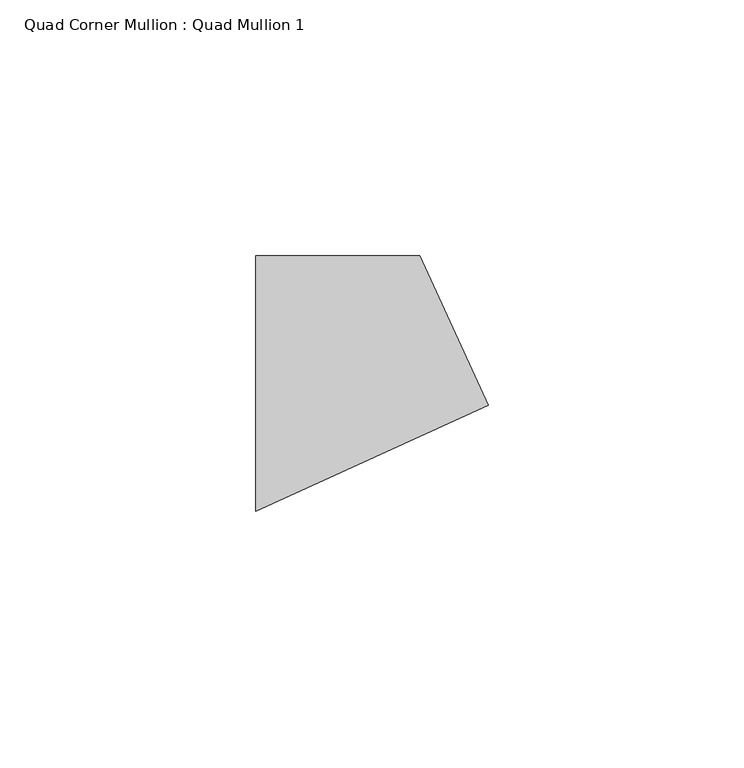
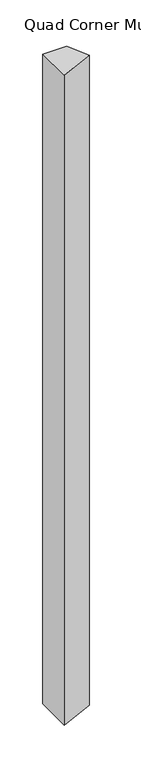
"""IFC4 building model written with IfcOpenShell, lengths in millimetres: member geometry, Quad Corner Mullion : Quad Mullion 1."""

from ifc_helpers import new_model, si_unit, frame, origin, place, context, project, spatial, polyline, outline, extrude, source, transform, mapped, element, save


def quad_corner_mullion_quad_mullion_1_0442d9f5(model_context):
    return source(origin(), model_context, "Body", "SweptSolid", [
        extrude(outline(polyline([(29.4125559, -4.1926582), (-16.0523154, -25.0), (-16.0523154, 25.0), (16.0523154, 25.0), (29.4125559, -4.1926582)])), frame((0.0, 0.0, -925.0), z_axis=(0.0, 0.0, 1.0), x_axis=(1.0, 0.0, 0.0)), (0.0, 0.0, 1.0), 925.0),
    ])


if __name__ == "__main__":
    model = new_model("IFC4")
    model_context = context("Model", 3, world=origin())
    ifc_project = project(units=[si_unit("LENGTHUNIT", "METRE", prefix="MILLI")], contexts=[model_context])
    site = spatial("IfcSite", under=ifc_project)
    building = spatial("IfcBuilding", under=site)
    placement = place(None, origin())
    quad_corner_mullion_quad_mullion_1_shape = quad_corner_mullion_quad_mullion_1_0442d9f5(model_context)
    element("IfcMember", 1, ObjectType="Quad Corner Mullion : Quad Mullion 1", at=placement, inside=building, context=model_context, shape_type="MappedRepresentation", body=[
        mapped(quad_corner_mullion_quad_mullion_1_shape, transform((0.0, 0.0, 0.0), x_axis=(1.0, 0.0, 0.0), y_axis=(0.0, 1.0, 0.0), z_axis=(0.0, 0.0, 1.0))),
    ])
    save(model, "model.ifc")
